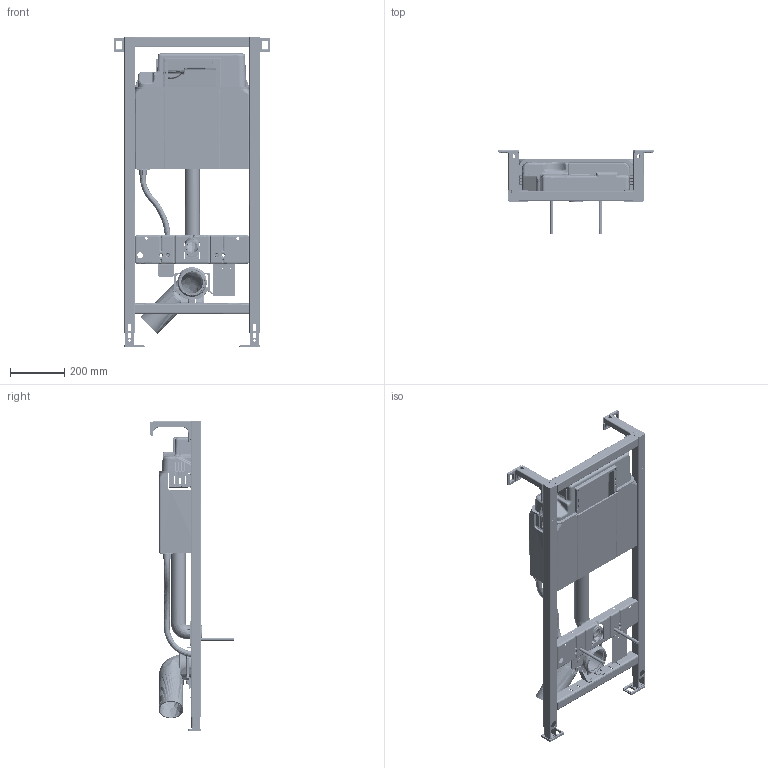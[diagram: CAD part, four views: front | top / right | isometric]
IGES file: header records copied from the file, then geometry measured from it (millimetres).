
Global section: file name: d:\users\matthias.isele\Desktop\planungsdaten_erstellen\W&W\DuraSystem\WD1011\WD1011.igs; native system: Rhinoceros ( Sep 13 2016 ); preprocessor: Trout Lake IGES 012 Sep 13 2016; date: 210629.075716; units: millimetre
Bounding box: 577.32 x 311.84 x 1147.5 mm (x, y, z)
Surface area: 2328672.1 mm2 (no closed solid volume)
Topology: 0 solids, 0 shells, 7466 faces, 51619 edges, 51493 vertices
Faces by surface type: bspline 7466
